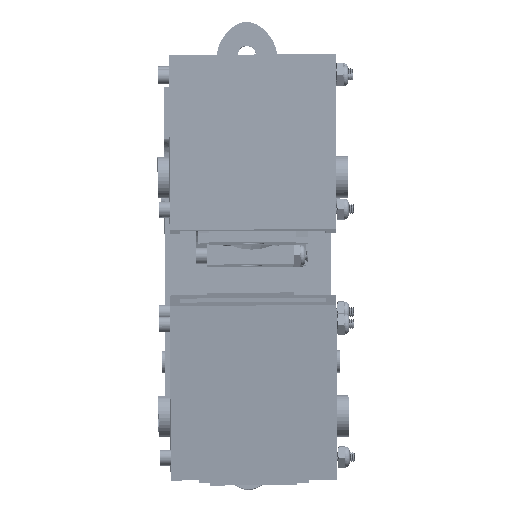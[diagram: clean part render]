
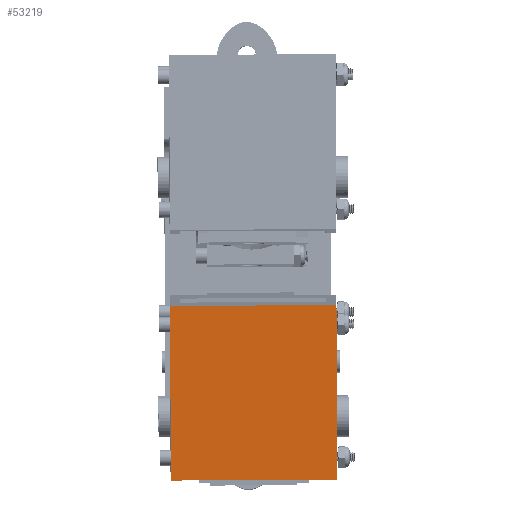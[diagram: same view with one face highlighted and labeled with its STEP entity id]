
A CAD part, top view. The second image highlights one B-rep face of the part: STEP entity #53219.
In plain terms, the highlighted planar face has unit normal (0.002, -0.064, 0.998) as drawn and (0, -1, 0) by its records, which use the part's own axes.
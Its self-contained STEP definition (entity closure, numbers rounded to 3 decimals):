
#6474=PLANE('',#57916);
#7763=FACE_OUTER_BOUND('',#11264,.T.);
#11264=EDGE_LOOP('',(#37493,#37494,#37495,#37496));
#15010=LINE('',#89686,#17550);
#15014=LINE('',#89695,#17554);
#15022=LINE('',#89709,#17562);
#15024=LINE('',#89714,#17564);
#17550=VECTOR('',#64429,1.465);
#17554=VECTOR('',#64435,1.465);
#17562=VECTOR('',#64447,1.465);
#17564=VECTOR('',#64453,1.465);
#22459=VERTEX_POINT('',#89683);
#22460=VERTEX_POINT('',#89685);
#22463=VERTEX_POINT('',#89692);
#22464=VERTEX_POINT('',#89694);
#28092=EDGE_CURVE('',#22460,#22459,#15010,.T.);
#28096=EDGE_CURVE('',#22463,#22464,#15014,.T.);
#28104=EDGE_CURVE('',#22460,#22463,#15022,.T.);
#28107=EDGE_CURVE('',#22459,#22464,#15024,.T.);
#37493=ORIENTED_EDGE('',*,*,#28092,.T.);
#37494=ORIENTED_EDGE('',*,*,#28107,.T.);
#37495=ORIENTED_EDGE('',*,*,#28096,.F.);
#37496=ORIENTED_EDGE('',*,*,#28104,.F.);
#53219=ADVANCED_FACE('',(#7763),#6474,.T.);
#57916=AXIS2_PLACEMENT_3D('',#89731,#64475,#64476);
#64429=DIRECTION('',(1.,0.,0.));
#64435=DIRECTION('',(1.,0.,0.));
#64447=DIRECTION('',(0.,0.,1.));
#64453=DIRECTION('',(0.,0.,1.));
#64475=DIRECTION('center_axis',(0.,-1.,0.));
#64476=DIRECTION('ref_axis',(1.,0.,0.));
#89683=CARTESIAN_POINT('',(94.286,162.407,72.475));
#89685=CARTESIAN_POINT('',(79.403,162.407,72.475));
#89686=CARTESIAN_POINT('',(79.403,162.407,72.475));
#89692=CARTESIAN_POINT('',(79.403,162.407,88.14));
#89694=CARTESIAN_POINT('',(94.286,162.407,88.14));
#89695=CARTESIAN_POINT('',(79.403,162.407,88.14));
#89709=CARTESIAN_POINT('',(79.403,162.407,72.475));
#89714=CARTESIAN_POINT('',(94.286,162.407,72.475));
#89731=CARTESIAN_POINT('Origin',(79.403,162.407,72.475));
